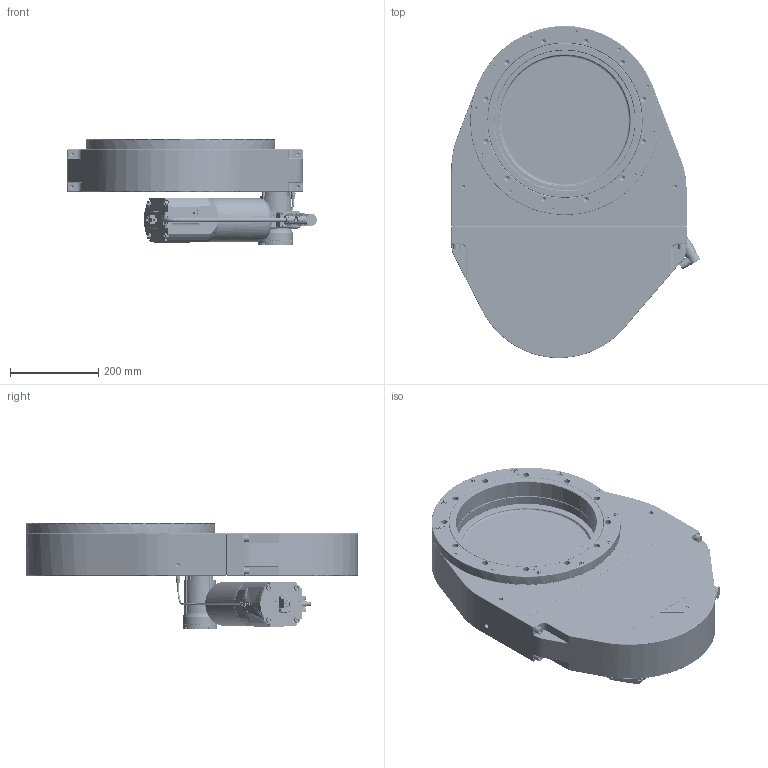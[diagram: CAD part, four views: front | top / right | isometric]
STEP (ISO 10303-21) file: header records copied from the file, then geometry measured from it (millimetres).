
FILE_DESCRIPTION((''),'2;1');
FILE_NAME('C:\TEMP\IDEAS\333031.stp','2007-12-14T13:44:00',('User'),( 'SDRC'),'I-DEAS Master Series 9','UNIX','Yes');
FILE_SCHEMA(('CONFIG_CONTROL_DESIGN'));
Length unit declared in the file: millimetre
Assembly tree (138 placements, depth 0):
Bounding box: 564.83 x 751.78 x 241 mm (x, y, z)
Volume: 15515440.2 mm3; surface area: 2548981.8 mm2
Topology: 177 solids, 177 shells, 6213 faces, 15490 edges, 10397 vertices
Faces by surface type: bspline 6213
Entity records: 207899 total; most frequent: CARTESIAN_POINT 118000, ORIENTED_EDGE 26292, EDGE_CURVE 13146, VERTEX_POINT 8337, EDGE_LOOP 6221, FACE_OUTER_BOUND 5398, ADVANCED_FACE 5398, B_SPLINE_CURVE_WITH_KNOTS 4842
